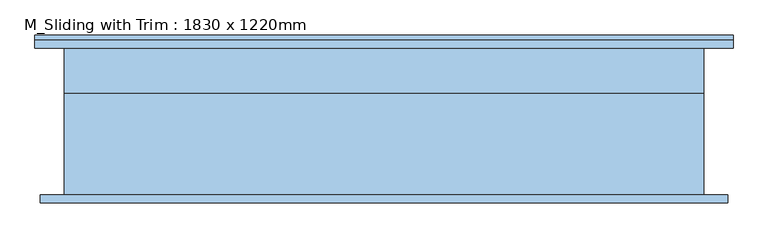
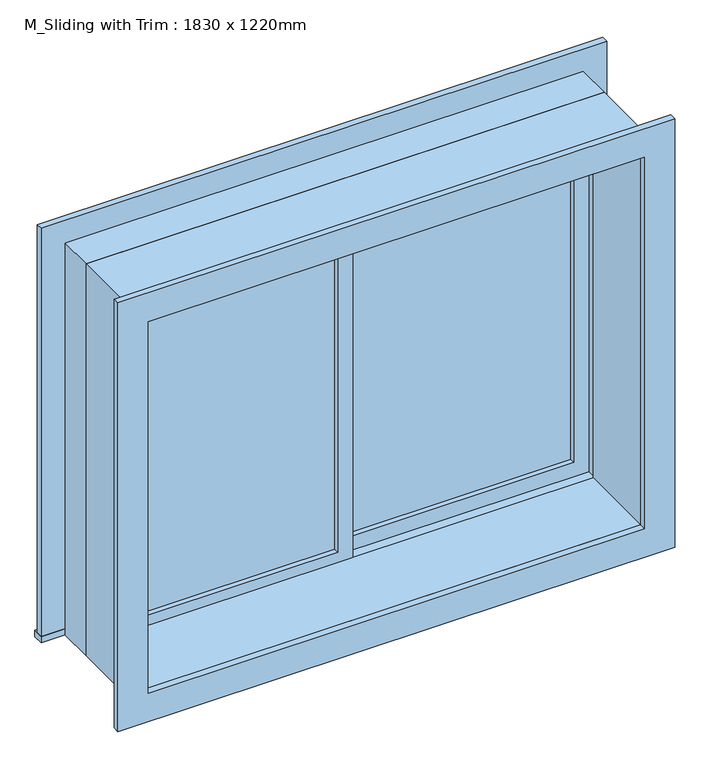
"""IFC4 building model written with IfcOpenShell, lengths in millimetres: window geometry, M_Sliding with Trim : 1830 x 1220mm."""

from ifc_helpers import new_model, si_unit, frame, origin, place, context, project, spatial, polyline, outline, extrude, source, transform, mapped, element, save


def m_sliding_with_trim_1830_x_1220mm_f8e2f31e(model_context):
    return source(origin(), model_context, "Body", "SweptSolid", [
        extrude(outline(polyline([(-698.5, 95.625), (-22.225, 95.625), (-22.225, 82.925), (-698.5, 82.925), (-698.5, 95.625)])), frame((0.0, 0.0, 977.9), z_axis=(0.0, 0.0, 1.0), x_axis=(1.0, 0.0, 0.0)), (0.0, 0.0, 1.0), 1092.2),
        extrude(outline(polyline([(2114.55, -742.95), (933.45, -742.95), (933.45, 22.225), (2114.55, 22.225), (2114.55, -742.95)]), holes=[polyline([(2070.1, -698.5), (2070.1, -22.225), (977.9, -22.225), (977.9, -698.5), (2070.1, -698.5)])]), frame((0.0, 67.05, 0.0), z_axis=(0.0, 1.0, 0.0), x_axis=(0.0, 0.0, 1.0)), (0.0, 0.0, 1.0), 44.45),
        extrude(outline(polyline([(-831.85, 206.75), (831.85, 206.75), (831.85, 175.0), (-831.85, 175.0), (-831.85, 206.75)])), frame((0.0, 0.0, 914.4), z_axis=(0.0, 0.0, 1.0), x_axis=(1.0, 0.0, 0.0)), (0.0, 0.0, 1.0), 19.05),
        extrude(outline(polyline([(2114.55, -742.95), (2114.55, 742.95), (933.45, 742.95), (933.45, 831.85), (2203.45, 831.85), (2203.45, -831.85), (933.45, -831.85), (933.45, -742.95), (2114.55, -742.95)])), frame((0.0, 175.0, 0.0), z_axis=(0.0, 1.0, 0.0), x_axis=(0.0, 0.0, 1.0)), (0.0, 0.0, 1.0), 19.05),
        extrude(outline(polyline([(2190.75, 819.15), (2190.75, -819.15), (857.25, -819.15), (857.25, 819.15), (2190.75, 819.15)]), holes=[polyline([(2101.85, 730.25), (946.15, 730.25), (946.15, -730.25), (2101.85, -730.25), (2101.85, 730.25)])]), frame((0.0, -194.05, 0.0), z_axis=(0.0, 1.0, 0.0), x_axis=(0.0, 0.0, 1.0)), (0.0, 0.0, 1.0), 19.05),
        extrude(outline(polyline([(698.5, 127.375), (22.225, 127.375), (22.225, 140.075), (698.5, 140.075), (698.5, 127.375)])), frame((0.0, 0.0, 977.9), z_axis=(0.0, 0.0, 1.0), x_axis=(1.0, 0.0, 0.0)), (0.0, 0.0, 1.0), 1092.2),
        extrude(outline(polyline([(2114.55, -22.225), (933.45, -22.225), (933.45, 742.95), (2114.55, 742.95), (2114.55, -22.225)]), holes=[polyline([(2070.1, 22.225), (2070.1, 698.5), (977.9, 698.5), (977.9, 22.225), (2070.1, 22.225)])]), frame((0.0, 111.5, 0.0), z_axis=(0.0, 1.0, 0.0), x_axis=(0.0, 0.0, 1.0)), (0.0, 0.0, 1.0), 44.45),
        extrude(outline(polyline([(2133.6, -762.0), (914.4, -762.0), (914.4, 762.0), (2133.6, 762.0), (2133.6, -762.0)]), holes=[polyline([(2101.85, -730.25), (2101.85, 730.25), (946.15, 730.25), (946.15, -730.25), (2101.85, -730.25)])]), frame((0.0, -175.0, 0.0), z_axis=(0.0, 1.0, 0.0), x_axis=(0.0, 0.0, 1.0)), (0.0, 0.0, 1.0), 242.05),
        extrude(outline(polyline([(2133.6, 762.0), (2133.6, -762.0), (914.4, -762.0), (914.4, 762.0), (2133.6, 762.0)]), holes=[polyline([(2114.55, 742.95), (933.45, 742.95), (933.45, -742.95), (2114.55, -742.95), (2114.55, 742.95)])]), frame((0.0, 67.05, 0.0), z_axis=(0.0, 1.0, 0.0), x_axis=(0.0, 0.0, 1.0)), (0.0, 0.0, 1.0), 107.95),
    ])


if __name__ == "__main__":
    model = new_model("IFC4")
    model_context = context("Model", 3, world=origin())
    ifc_project = project(units=[si_unit("LENGTHUNIT", "METRE", prefix="MILLI")], contexts=[model_context])
    site = spatial("IfcSite", under=ifc_project)
    building = spatial("IfcBuilding", under=site)
    placement = place(None, origin())
    m_sliding_with_trim_1830_x_1220mm_shape = m_sliding_with_trim_1830_x_1220mm_f8e2f31e(model_context)
    element("IfcWindow", 1, ObjectType="M_Sliding with Trim : 1830 x 1220mm", at=placement, inside=building, context=model_context, shape_type="MappedRepresentation", body=[
        mapped(m_sliding_with_trim_1830_x_1220mm_shape, transform((0.0, 0.0, 0.0), x_axis=(1.0, 0.0, 0.0), y_axis=(0.0, 1.0, 0.0), z_axis=(0.0, 0.0, 1.0))),
    ])
    save(model, "model.ifc")
